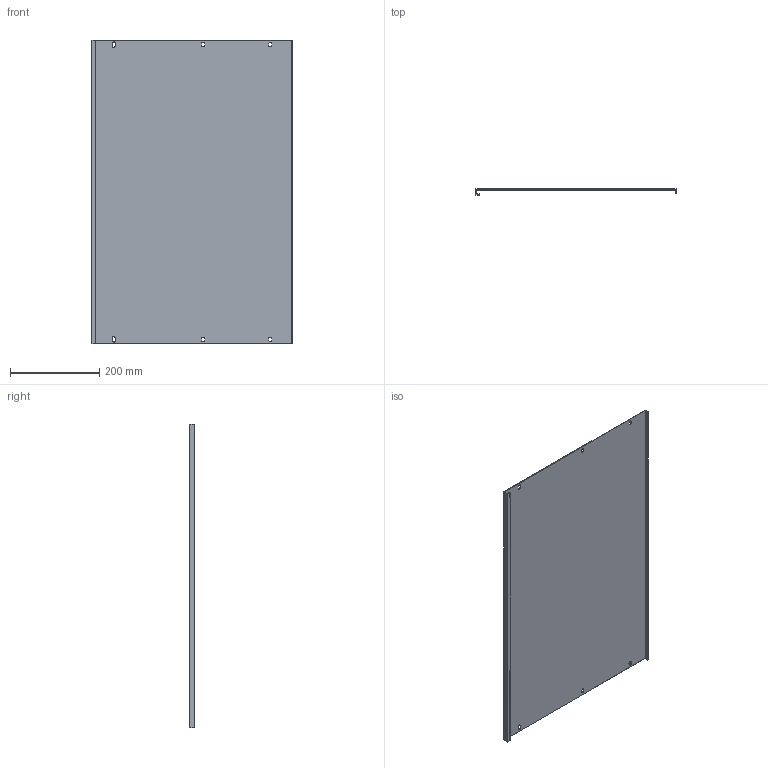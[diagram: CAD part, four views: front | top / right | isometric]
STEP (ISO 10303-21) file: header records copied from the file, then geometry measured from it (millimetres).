
FILE_DESCRIPTION (( 'STEP AP214' ), '1' );
FILE_NAME ('FO-00-PVS-045-080 Ïëàñòðîí ãëóõîé âíóòðåííèé 450õ800.STEP', '2025-08-26T08:49:22', ( '' ), ( '' ), 'SwSTEP 2.0', 'SolidWorks 2023', '' );
FILE_SCHEMA (( 'AUTOMOTIVE_DESIGN' ));
Length unit declared in the file: millimetre
Products named in the file (1): FO-00-PVS-045-080 Пластрон глухой внутренний 450х800
Bounding box: 448 x 12.5 x 679 mm (x, y, z)
Volume: 482191.6 mm3; surface area: 646645.1 mm2
Topology: 1 solids, 1 shells, 52 faces, 150 edges, 100 vertices
Faces by surface type: plane 34, cylinder 18
Entity records: 1757 total; most frequent: CARTESIAN_POINT 303, ORIENTED_EDGE 300, DIRECTION 292, EDGE_CURVE 150, LINE 114, VECTOR 114, VERTEX_POINT 100, AXIS2_PLACEMENT_3D 89
